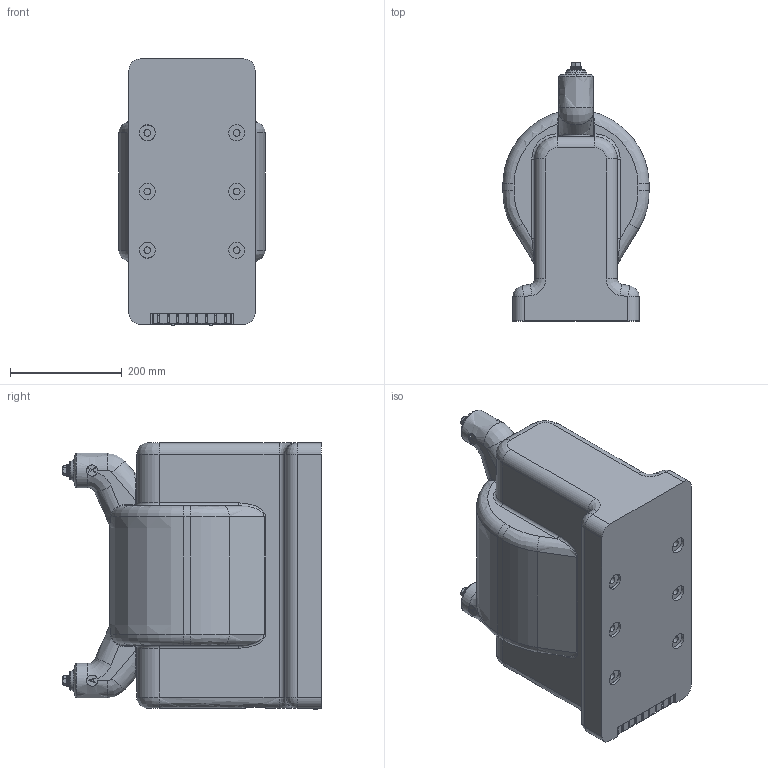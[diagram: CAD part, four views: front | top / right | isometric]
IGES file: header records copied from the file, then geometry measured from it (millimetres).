
Start section: IGES file generated from Kompas f.0 for Windows drawing by the IGES translator from Ascon Ltd., translator version IGESOUT-5.1.
Global section: file name: W:\3D_ìîäåëè\ÐÅÅÑÒÐ 3Ä ÌÎÄÅËÅÉ\269 ÎËÑ-ÍÒÇ-10-6(10,20) ÓÕË2, Ò2\ÎËÑ-ÍÒÇ-10-6(10,20) ÓÕË2, Ò2.igs; native system: Kompas( 32 bit ) for Windows; preprocessor: 1.0; author: msu; organization: ÎÎÎ "ÍÒÇ" Âîëõîâ"; date: -17780530:075722; units: millimetre
Bounding box: 261.77 x 462.4 x 476.6 mm (x, y, z)
Volume: 38844.7 mm3; surface area: 765542.5 mm2
Topology: 41 solids, 42 shells, 954 faces, 2297 edges, 1444 vertices
Faces by surface type: revolution 574, bspline 380
